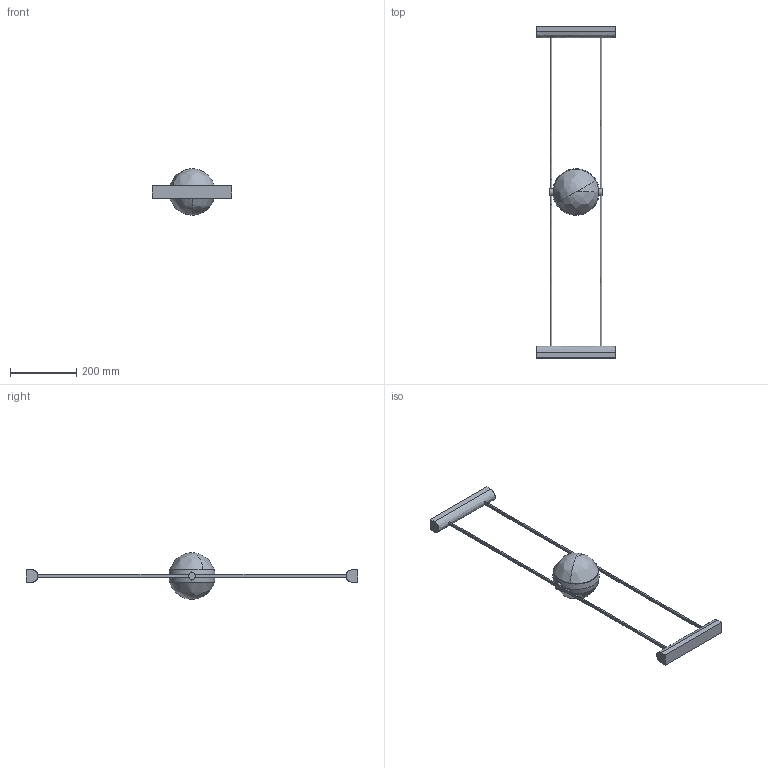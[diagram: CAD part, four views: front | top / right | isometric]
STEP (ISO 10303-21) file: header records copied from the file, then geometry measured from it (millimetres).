
FILE_DESCRIPTION(/* description */ (''),/* implementation_level */ '2;1');
FILE_NAME(/* name */ 'cini&nils-miniTensoSferico-3d',/* time_stamp */ '2017-07-18T11:12:41+02:00',/* author */ (''),/* organization */ (''),/* preprocessor_version */ 'ST-DEVELOPER v15',/* originating_system */ '',/* authorisation */ '');
FILE_SCHEMA (('CONFIG_CONTROL_DESIGN'));
Length unit declared in the file: millimetre
Products named in the file (3): CINIENILS_MINITENSOSFERICO_ASM; CINIENILS_MINITENSOSFERICO; Blocco 01
Assembly tree (2 placements, depth 3):
  CINIENILS_MINITENSOSFERICO_ASM
    CINIENILS_MINITENSOSFERICO
      Blocco 01
Bounding box: 240 x 1000 x 140 mm (x, y, z)
Volume: 2091984.1 mm3; surface area: 180147.2 mm2
Topology: 3 solids, 3 shells, 129 faces, 333 edges, 206 vertices
Faces by surface type: bspline 79, plane 50
Entity records: 7041 total; most frequent: CARTESIAN_POINT 4856, ORIENTED_EDGE 654, EDGE_CURVE 327, VERTEX_POINT 206, B_SPLINE_CURVE_WITH_KNOTS 169, EDGE_LOOP 135, ADVANCED_FACE 129, FACE_OUTER_BOUND 129
